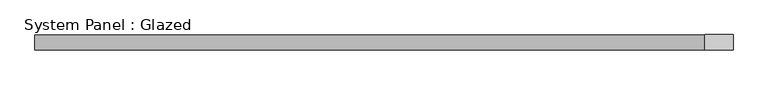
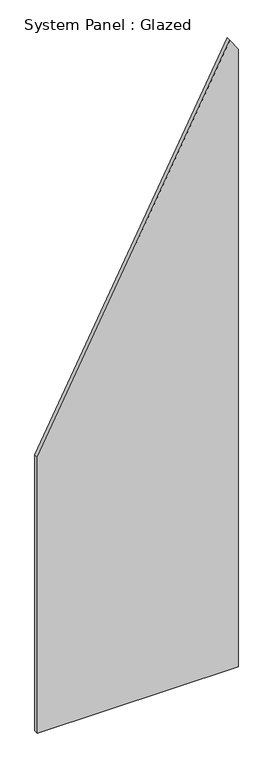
"""IFC4 building model written with IfcOpenShell, lengths in millimetres: plate geometry, System Panel : Glazed."""

from ifc_helpers import new_model, si_unit, frame, origin, place, context, project, spatial, polyline, outline, extrude, source, transform, mapped, element, save


def system_panel_glazed_c96be091(model_context):
    return source(origin(), model_context, "Body", "SweptSolid", [
        extrude(outline(polyline([(0.0, -571.5147841), (0.0, 571.5147841), (3718.9331685, 571.5147841), (3790.6967476, 525.1148145), (1660.9446084, -571.5147841), (0.0, -571.5147841)])), frame((0.0, -12.5, 0.0), z_axis=(0.0, 1.0, 0.0), x_axis=(0.0, 0.0, 1.0)), (0.0, 0.0, 1.0), 25.0),
    ])


if __name__ == "__main__":
    model = new_model("IFC4")
    model_context = context("Model", 3, world=origin())
    ifc_project = project(units=[si_unit("LENGTHUNIT", "METRE", prefix="MILLI")], contexts=[model_context])
    site = spatial("IfcSite", under=ifc_project)
    building = spatial("IfcBuilding", under=site)
    placement = place(None, origin())
    system_panel_glazed_shape = system_panel_glazed_c96be091(model_context)
    element("IfcPlate", 1, ObjectType="System Panel : Glazed", at=placement, inside=building, context=model_context, shape_type="MappedRepresentation", body=[
        mapped(system_panel_glazed_shape, transform((0.0, 0.0, 0.0), x_axis=(1.0, 0.0, 0.0), y_axis=(0.0, 1.0, 0.0), z_axis=(0.0, 0.0, 1.0))),
    ])
    save(model, "model.ifc")
